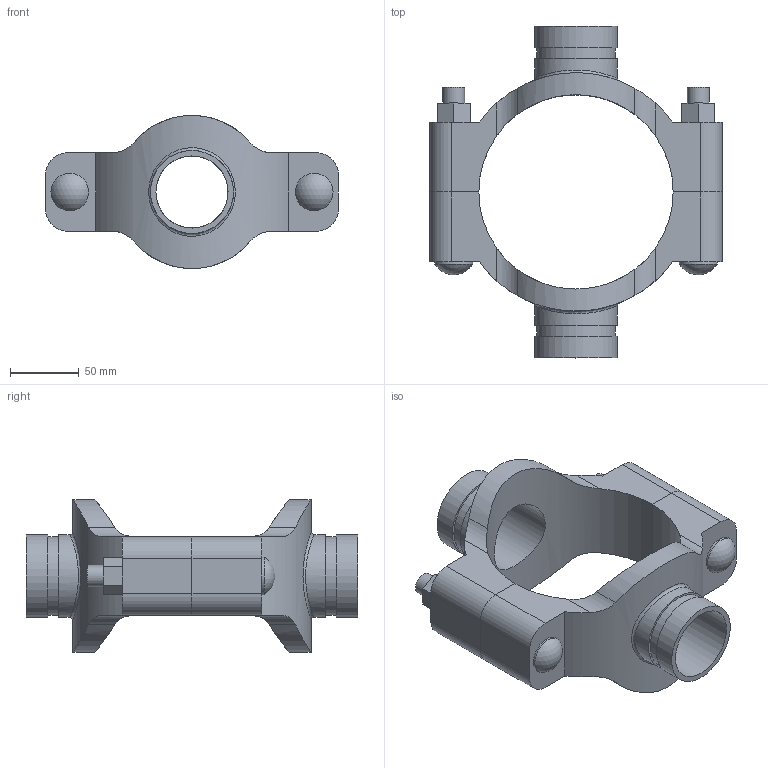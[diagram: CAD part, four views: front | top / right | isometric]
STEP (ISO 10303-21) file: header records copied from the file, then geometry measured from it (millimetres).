
FILE_DESCRIPTION(/* description */ ('VIC MECH-T BRANCH OUTLET CROSS STYLE 920N (GRVD)','CAx-IF Rec.Pracs.---Representation and Presentation of Product Manufacturing Information (PMI)---4.0---2014-10-13'),/* implementation_level */ '2;1');
FILE_NAME(/* name */ 'C:\Users\Vjadhav\AppData\Roaming\Autodesk\ApplicationPlugins\Back Up\Victaulic_IPS_Mechanical-Cross Outlet_Style 920N (OGS)\Victaulic_IPS_Mechanical-Cross Outlet_05.0x02.0x02.0 (125x50x50).stp',/* time_stamp */ '2020-08-06T19:44:18+05:00',/* author */ ('Vjadhav'),/* organization */ ('Victaulic'),/* preprocessor_version */ 'ST-DEVELOPER v17.2',/* originating_system */ 'Autodesk Inventor 2019',/* authorisation */ '');
FILE_SCHEMA (('AP242_MANAGED_MODEL_BASED_3D_ENGINEERING_MIM_LF { 1 0 10303 442 1 1 4 }'));
Length unit declared in the file: inch
Products named in the file (3): 920NG-05.0x02.0x02.0; 920G-05.0x02.0; 920G-05.0x02.0_1
Assembly tree (2 placements, depth 2):
  920NG-05.0x02.0x02.0
    920G-05.0x02.0
    920G-05.0x02.0_1
Bounding box: 212.85 x 241.3 x 111.25 mm (x, y, z)
Volume: 820533.7 mm3; surface area: 162025.5 mm2
Topology: 2 solids, 2 shells, 104 faces, 262 edges, 178 vertices
Faces by surface type: plane 54, cylinder 46, sphere 2, bspline 2
Full cylindrical faces by diameter (mm): 15.875 x4, 27.381 x2, 52.387 x2, 57.15 x2, 60.325 x4
Entity records: 4100 total; most frequent: CARTESIAN_POINT 1327, DIRECTION 532, ORIENTED_EDGE 524, EDGE_CURVE 262, AXIS2_PLACEMENT_3D 193, VERTEX_POINT 178, LINE 146, VECTOR 146
